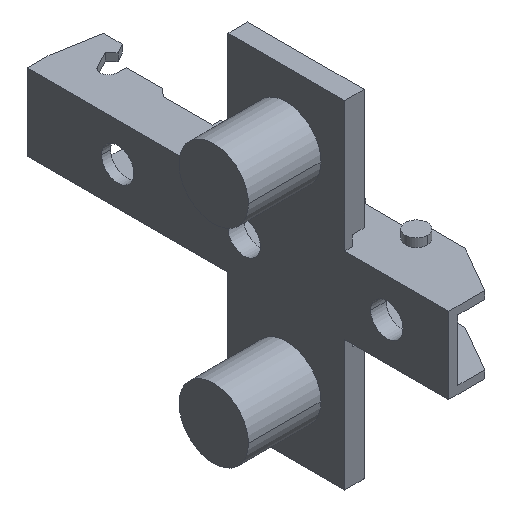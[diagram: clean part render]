
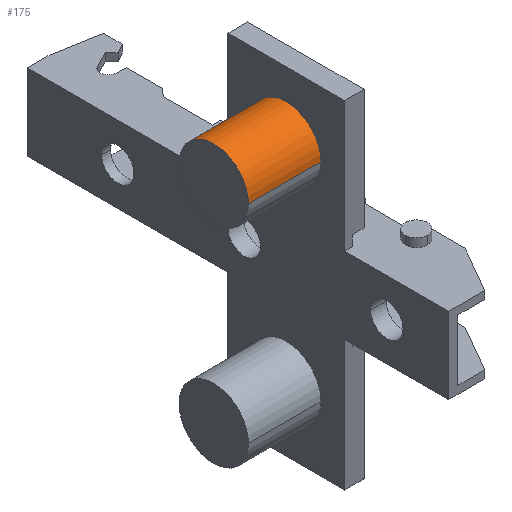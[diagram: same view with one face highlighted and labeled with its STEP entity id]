
A CAD part, isometric view. The second image highlights one B-rep face of the part: STEP entity #175.
In plain terms, the highlighted cylindrical face has radius 5.35 mm (diameter 10.7 mm), a partial arc.
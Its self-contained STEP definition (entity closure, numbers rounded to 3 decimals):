
#69 = DIRECTION ( 'NONE',  ( -1., 0., 0. ) ) ;
#79 = CARTESIAN_POINT ( 'NONE',  ( 0., 0., 16. ) ) ;
#100 = CARTESIAN_POINT ( 'NONE',  ( -11.2, 5.35, 16. ) ) ;
#146 = DIRECTION ( 'NONE',  ( 1., 0., 0. ) ) ;
#154 = DIRECTION ( 'NONE',  ( 0., 1., 0. ) ) ;
#175 = ADVANCED_FACE ( 'NONE', ( #3052 ), #3122, .T. ) ;
#316 = VERTEX_POINT ( 'NONE', #892 ) ;
#355 = VERTEX_POINT ( 'NONE', #1220 ) ;
#361 = VERTEX_POINT ( 'NONE', #1213 ) ;
#372 = VERTEX_POINT ( 'NONE', #1196 ) ;
#564 = DIRECTION ( 'NONE',  ( 1., 0., 0. ) ) ;
#569 = DIRECTION ( 'NONE',  ( 0., -1., 0. ) ) ;
#778 = CARTESIAN_POINT ( 'NONE',  ( -11.2, 0., 16. ) ) ;
#892 = CARTESIAN_POINT ( 'NONE',  ( 0., -5.35, 16. ) ) ;
#1196 = CARTESIAN_POINT ( 'NONE',  ( -11.2, -5.35, 16. ) ) ;
#1213 = CARTESIAN_POINT ( 'NONE',  ( -11.2, 5.35, 16. ) ) ;
#1220 = CARTESIAN_POINT ( 'NONE',  ( 0., 5.35, 16. ) ) ;
#1252 = LINE ( 'NONE', #2277, #1253 ) ;
#1253 = VECTOR ( 'NONE', #2275, 1000. ) ;
#1276 = CIRCLE ( 'NONE', #2700, 5.35 ) ;
#1385 = LINE ( 'NONE', #100, #1387 ) ;
#1386 = CIRCLE ( 'NONE', #2764, 5.35 ) ;
#1387 = VECTOR ( 'NONE', #146, 1000. ) ;
#2262 = DIRECTION ( 'NONE',  ( 0., 1., 0. ) ) ;
#2275 = DIRECTION ( 'NONE',  ( 1., 0., 0. ) ) ;
#2277 = CARTESIAN_POINT ( 'NONE',  ( -11.2, -5.35, 16. ) ) ;
#2278 = CARTESIAN_POINT ( 'NONE',  ( -11.2, 0., 16. ) ) ;
#2334 = DIRECTION ( 'NONE',  ( -1., 0., 0. ) ) ;
#2455 = ORIENTED_EDGE ( 'NONE', *, *, #2816, .T. ) ;
#2456 = ORIENTED_EDGE ( 'NONE', *, *, #2741, .F. ) ;
#2457 = ORIENTED_EDGE ( 'NONE', *, *, #2736, .T. ) ;
#2458 = ORIENTED_EDGE ( 'NONE', *, *, #2819, .F. ) ;
#2700 = AXIS2_PLACEMENT_3D ( 'NONE', #2278, #2334, #2262 ) ;
#2736 = EDGE_CURVE ( 'NONE', #372, #316, #1252, .T. ) ;
#2740 = AXIS2_PLACEMENT_3D ( 'NONE', #778, #564, #569 ) ;
#2741 = EDGE_CURVE ( 'NONE', #372, #361, #1276, .T. ) ;
#2764 = AXIS2_PLACEMENT_3D ( 'NONE', #79, #69, #154 ) ;
#2816 = EDGE_CURVE ( 'NONE', #316, #355, #1386, .T. ) ;
#2819 = EDGE_CURVE ( 'NONE', #361, #355, #1385, .T. ) ;
#3052 = FACE_OUTER_BOUND ( 'NONE', #3184, .T. ) ;
#3122 = CYLINDRICAL_SURFACE ( 'NONE', #2740, 5.35 ) ;
#3184 = EDGE_LOOP ( 'NONE', ( #2458, #2456, #2457, #2455 ) ) ;
